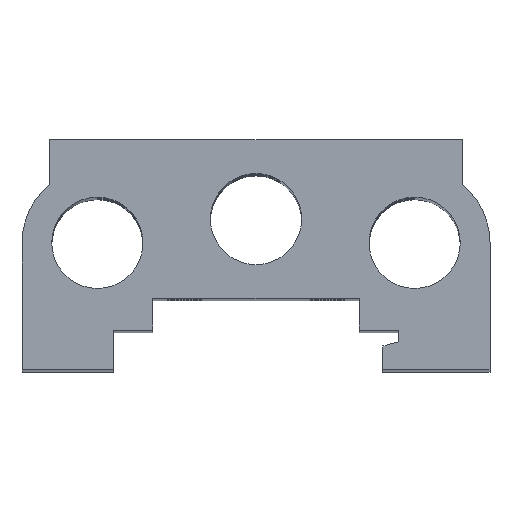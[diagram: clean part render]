
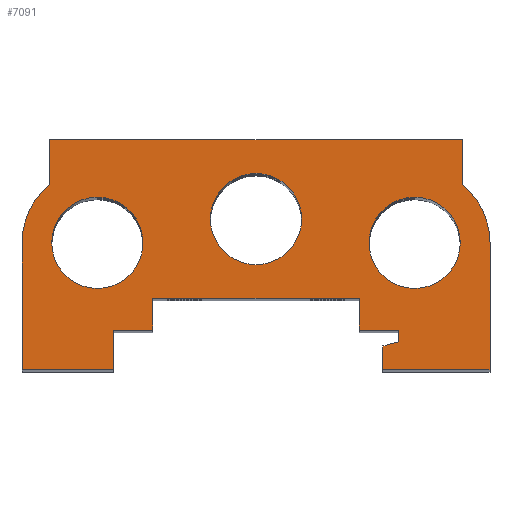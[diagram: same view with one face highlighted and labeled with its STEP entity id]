
A CAD part, top view. The second image highlights one B-rep face of the part: STEP entity #7091.
In plain terms, the highlighted planar face has unit normal (0, 0, 1).
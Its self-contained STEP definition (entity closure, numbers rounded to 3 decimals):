
#6129=CARTESIAN_POINT('',(25.75,16.0,180.0));
#6130=VERTEX_POINT('',#6129);
#6131=CARTESIAN_POINT('',(20.0,16.0,180.0));
#6132=DIRECTION('',(0.0,0.0,-1.0));
#6133=DIRECTION('',(-1.0,0.0,0.0));
#6134=AXIS2_PLACEMENT_3D('',#6131,#6132,#6133);
#6135=CIRCLE('',#6134,5.75);
#6136=EDGE_CURVE('',#6130,#6130,#6135,.T.);
#6181=CARTESIAN_POINT('',(5.75,19.0,180.0));
#6182=VERTEX_POINT('',#6181);
#6183=CARTESIAN_POINT('',(0.0,19.0,180.0));
#6184=DIRECTION('',(0.0,0.0,-1.0));
#6185=DIRECTION('',(-1.0,0.0,0.0));
#6186=AXIS2_PLACEMENT_3D('',#6183,#6184,#6185);
#6187=CIRCLE('',#6186,5.75);
#6188=EDGE_CURVE('',#6182,#6182,#6187,.T.);
#6227=CARTESIAN_POINT('',(-14.25,16.0,180.0));
#6228=VERTEX_POINT('',#6227);
#6229=CARTESIAN_POINT('',(-20.0,16.0,180.0));
#6230=DIRECTION('',(0.0,0.0,-1.0));
#6231=DIRECTION('',(-1.0,0.0,0.0));
#6232=AXIS2_PLACEMENT_3D('',#6229,#6230,#6231);
#6233=CIRCLE('',#6232,5.75);
#6234=EDGE_CURVE('',#6228,#6228,#6233,.T.);
#6279=CARTESIAN_POINT('',(-29.5,16.,180.0));
#6280=VERTEX_POINT('',#6279);
#6281=CARTESIAN_POINT('',(-26.,23.365,180.0));
#6282=VERTEX_POINT('',#6281);
#6283=CARTESIAN_POINT('',(-20.0,16.0,180.0));
#6284=DIRECTION('',(0.0,0.0,-1.0));
#6285=DIRECTION('',(-0.632,0.775,0.0));
#6286=AXIS2_PLACEMENT_3D('',#6283,#6284,#6285);
#6287=CIRCLE('',#6286,9.5);
#6288=EDGE_CURVE('',#6280,#6282,#6287,.T.);
#6321=CARTESIAN_POINT('',(-26.,29.,180.0));
#6322=VERTEX_POINT('',#6321);
#6323=CARTESIAN_POINT('',(-26.,23.365,180.0));
#6324=DIRECTION('',(0.0,1.0,0.0));
#6325=VECTOR('',#6324,5.635);
#6326=LINE('',#6323,#6325);
#6327=EDGE_CURVE('',#6282,#6322,#6326,.T.);
#6352=CARTESIAN_POINT('',(26.,29.,180.0));
#6353=VERTEX_POINT('',#6352);
#6354=CARTESIAN_POINT('',(-26.,29.,180.0));
#6355=DIRECTION('',(1.0,0.0,0.0));
#6356=VECTOR('',#6355,52.);
#6357=LINE('',#6354,#6356);
#6358=EDGE_CURVE('',#6322,#6353,#6357,.T.);
#6521=CARTESIAN_POINT('',(26.0,23.365,180.0));
#6522=VERTEX_POINT('',#6521);
#6523=CARTESIAN_POINT('',(26.,29.,180.0));
#6524=DIRECTION('',(0.0,-1.0,0.0));
#6525=VECTOR('',#6524,5.635);
#6526=LINE('',#6523,#6525);
#6527=EDGE_CURVE('',#6353,#6522,#6526,.T.);
#6552=CARTESIAN_POINT('',(29.5,16.0,180.0));
#6553=VERTEX_POINT('',#6552);
#6554=CARTESIAN_POINT('',(20.0,16.0,180.0));
#6555=DIRECTION('',(0.0,0.0,-1.0));
#6556=DIRECTION('',(1.0,0.0,0.0));
#6557=AXIS2_PLACEMENT_3D('',#6554,#6555,#6556);
#6558=CIRCLE('',#6557,9.5);
#6559=EDGE_CURVE('',#6522,#6553,#6558,.T.);
#6585=CARTESIAN_POINT('',(29.5,0.0,180.0));
#6586=VERTEX_POINT('',#6585);
#6587=CARTESIAN_POINT('',(29.5,16.0,180.0));
#6588=DIRECTION('',(0.0,-1.0,0.0));
#6589=VECTOR('',#6588,16.0);
#6590=LINE('',#6587,#6589);
#6591=EDGE_CURVE('',#6553,#6586,#6590,.T.);
#6616=CARTESIAN_POINT('',(16.,0.0,180.0));
#6617=VERTEX_POINT('',#6616);
#6618=CARTESIAN_POINT('',(29.5,0.0,180.0));
#6619=DIRECTION('',(-1.0,0.0,0.0));
#6620=VECTOR('',#6619,13.5);
#6621=LINE('',#6618,#6620);
#6622=EDGE_CURVE('',#6586,#6617,#6621,.T.);
#6647=CARTESIAN_POINT('',(16.,3.,180.0));
#6648=VERTEX_POINT('',#6647);
#6649=CARTESIAN_POINT('',(16.,0.0,180.0));
#6650=DIRECTION('',(0.0,1.0,0.0));
#6651=VECTOR('',#6650,3.);
#6652=LINE('',#6649,#6651);
#6653=EDGE_CURVE('',#6617,#6648,#6652,.T.);
#6678=CARTESIAN_POINT('',(18.0,3.536,180.0));
#6679=VERTEX_POINT('',#6678);
#6680=CARTESIAN_POINT('',(16.,3.,180.0));
#6681=DIRECTION('',(0.966,0.259,0.0));
#6682=VECTOR('',#6681,2.071);
#6683=LINE('',#6680,#6682);
#6684=EDGE_CURVE('',#6648,#6679,#6683,.T.);
#6709=CARTESIAN_POINT('',(18.,5.0,180.0));
#6710=VERTEX_POINT('',#6709);
#6711=CARTESIAN_POINT('',(18.0,3.536,180.0));
#6712=DIRECTION('',(0.0,1.0,0.0));
#6713=VECTOR('',#6712,1.464);
#6714=LINE('',#6711,#6713);
#6715=EDGE_CURVE('',#6679,#6710,#6714,.T.);
#6740=CARTESIAN_POINT('',(13.0,5.0,180.0));
#6741=VERTEX_POINT('',#6740);
#6742=CARTESIAN_POINT('',(18.,5.0,180.0));
#6743=DIRECTION('',(-1.0,0.0,0.0));
#6744=VECTOR('',#6743,5.);
#6745=LINE('',#6742,#6744);
#6746=EDGE_CURVE('',#6710,#6741,#6745,.T.);
#6771=CARTESIAN_POINT('',(13.0,9.0,180.0));
#6772=VERTEX_POINT('',#6771);
#6773=CARTESIAN_POINT('',(13.0,5.0,180.0));
#6774=DIRECTION('',(0.0,1.0,0.0));
#6775=VECTOR('',#6774,4.0);
#6776=LINE('',#6773,#6775);
#6777=EDGE_CURVE('',#6741,#6772,#6776,.T.);
#6802=CARTESIAN_POINT('',(-13.0,9.0,180.0));
#6803=VERTEX_POINT('',#6802);
#6804=CARTESIAN_POINT('',(13.0,9.0,180.0));
#6805=DIRECTION('',(-1.0,0.0,0.0));
#6806=VECTOR('',#6805,26.0);
#6807=LINE('',#6804,#6806);
#6808=EDGE_CURVE('',#6772,#6803,#6807,.T.);
#6881=CARTESIAN_POINT('',(-13.0,5.0,180.0));
#6882=VERTEX_POINT('',#6881);
#6883=CARTESIAN_POINT('',(-13.0,9.0,180.0));
#6884=DIRECTION('',(0.0,-1.0,0.0));
#6885=VECTOR('',#6884,4.0);
#6886=LINE('',#6883,#6885);
#6887=EDGE_CURVE('',#6803,#6882,#6886,.T.);
#6912=CARTESIAN_POINT('',(-18.0,5.0,180.0));
#6913=VERTEX_POINT('',#6912);
#6914=CARTESIAN_POINT('',(-13.0,5.0,180.0));
#6915=DIRECTION('',(-1.0,0.0,0.0));
#6916=VECTOR('',#6915,5.0);
#6917=LINE('',#6914,#6916);
#6918=EDGE_CURVE('',#6882,#6913,#6917,.T.);
#6943=CARTESIAN_POINT('',(-18.0,0.0,180.0));
#6944=VERTEX_POINT('',#6943);
#6945=CARTESIAN_POINT('',(-18.0,5.0,180.0));
#6946=DIRECTION('',(0.0,-1.0,0.0));
#6947=VECTOR('',#6946,5.0);
#6948=LINE('',#6945,#6947);
#6949=EDGE_CURVE('',#6913,#6944,#6948,.T.);
#6974=CARTESIAN_POINT('',(-29.5,0.0,180.0));
#6975=VERTEX_POINT('',#6974);
#6976=CARTESIAN_POINT('',(-18.0,0.0,180.0));
#6977=DIRECTION('',(-1.0,0.0,0.0));
#6978=VECTOR('',#6977,11.5);
#6979=LINE('',#6976,#6978);
#6980=EDGE_CURVE('',#6944,#6975,#6979,.T.);
#7005=CARTESIAN_POINT('',(-29.5,0.0,180.0));
#7006=DIRECTION('',(0.0,1.0,0.0));
#7007=VECTOR('',#7006,16.);
#7008=LINE('',#7005,#7007);
#7009=EDGE_CURVE('',#6975,#6280,#7008,.T.);
#7057=CARTESIAN_POINT('',(0.278,14.351,180.0));
#7058=DIRECTION('',(0.0,0.0,1.0));
#7059=DIRECTION('',(1.0,0.0,0.0));
#7060=AXIS2_PLACEMENT_3D('',#7057,#7058,#7059);
#7061=PLANE('',#7060);
#7062=ORIENTED_EDGE('',*,*,#6288,.F.);
#7063=ORIENTED_EDGE('',*,*,#7009,.F.);
#7064=ORIENTED_EDGE('',*,*,#6980,.F.);
#7065=ORIENTED_EDGE('',*,*,#6949,.F.);
#7066=ORIENTED_EDGE('',*,*,#6918,.F.);
#7067=ORIENTED_EDGE('',*,*,#6887,.F.);
#7068=ORIENTED_EDGE('',*,*,#6808,.F.);
#7069=ORIENTED_EDGE('',*,*,#6777,.F.);
#7070=ORIENTED_EDGE('',*,*,#6746,.F.);
#7071=ORIENTED_EDGE('',*,*,#6715,.F.);
#7072=ORIENTED_EDGE('',*,*,#6684,.F.);
#7073=ORIENTED_EDGE('',*,*,#6653,.F.);
#7074=ORIENTED_EDGE('',*,*,#6622,.F.);
#7075=ORIENTED_EDGE('',*,*,#6591,.F.);
#7076=ORIENTED_EDGE('',*,*,#6559,.F.);
#7077=ORIENTED_EDGE('',*,*,#6527,.F.);
#7078=ORIENTED_EDGE('',*,*,#6358,.F.);
#7079=ORIENTED_EDGE('',*,*,#6327,.F.);
#7080=EDGE_LOOP('',(#7062,#7063,#7064,#7065,#7066,#7067,#7068,#7069,#7070,#7071,#7072,#7073,#7074,#7075,#7076,#7077,#7078,#7079));
#7081=FACE_OUTER_BOUND('',#7080,.T.);
#7082=ORIENTED_EDGE('',*,*,#6136,.T.);
#7083=EDGE_LOOP('',(#7082));
#7084=FACE_BOUND('',#7083,.T.);
#7085=ORIENTED_EDGE('',*,*,#6188,.T.);
#7086=EDGE_LOOP('',(#7085));
#7087=FACE_BOUND('',#7086,.T.);
#7088=ORIENTED_EDGE('',*,*,#6234,.T.);
#7089=EDGE_LOOP('',(#7088));
#7090=FACE_BOUND('',#7089,.T.);
#7091=ADVANCED_FACE('',(#7081,#7084,#7087,#7090),#7061,.T.);
